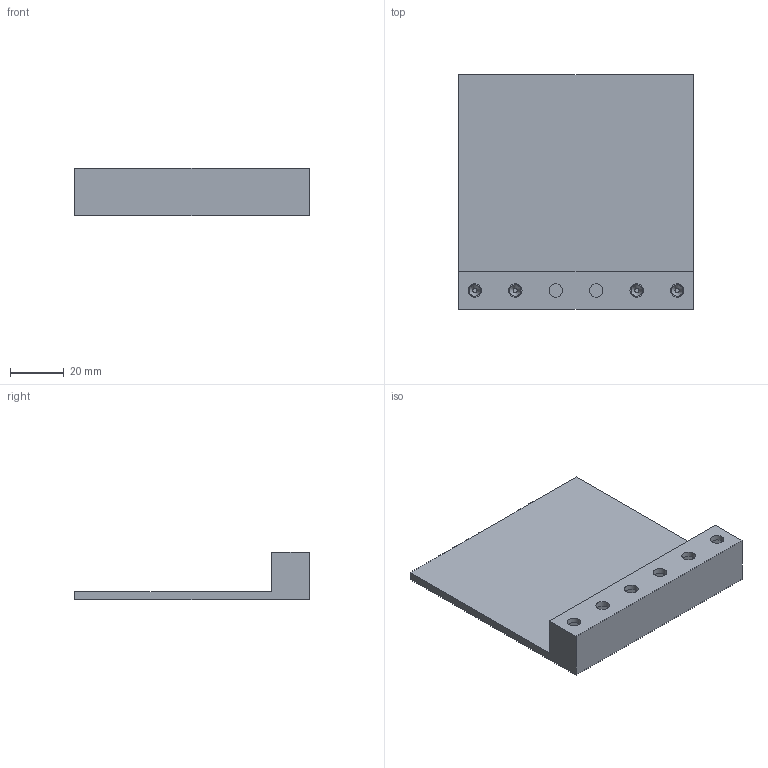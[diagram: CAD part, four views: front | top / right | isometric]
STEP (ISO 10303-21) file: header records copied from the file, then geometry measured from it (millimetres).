
FILE_DESCRIPTION(/* description */ (''),/* implementation_level */ '2;1');
FILE_NAME(/* name */ 'Z:\Flow\Inventor\Flow Reaktor 9 - Mutter eingedruckt.stp',/* time_stamp */ '2018-09-10T16:40:08+02:00',/* author */ ('JN'),/* organization */ (''),/* preprocessor_version */ 'ST-DEVELOPER v16.13',/* originating_system */ 'Autodesk Inventor 2018',/* authorisation */ '');
FILE_SCHEMA (('AUTOMOTIVE_DESIGN { 1 0 10303 214 3 1 1 }'));
Length unit declared in the file: millimetre
Products named in the file (1): Flow reactor 2
Bounding box: 87 x 87 x 17.6 mm (x, y, z)
Volume: 35092.8 mm3; surface area: 30690.5 mm2
Topology: 1 solids, 1 shells, 263 faces, 717 edges, 477 vertices
Faces by surface type: plane 181, cylinder 78, cone 4
Full cylindrical faces by diameter (mm): 1.5 x4, 2 x4, 5 x12
Entity records: 8187 total; most frequent: CARTESIAN_POINT 1426, DIRECTION 1382, ORIENTED_EDGE 1378, EDGE_CURVE 689, LINE 524, VECTOR 524, VERTEX_POINT 473, AXIS2_PLACEMENT_3D 429
